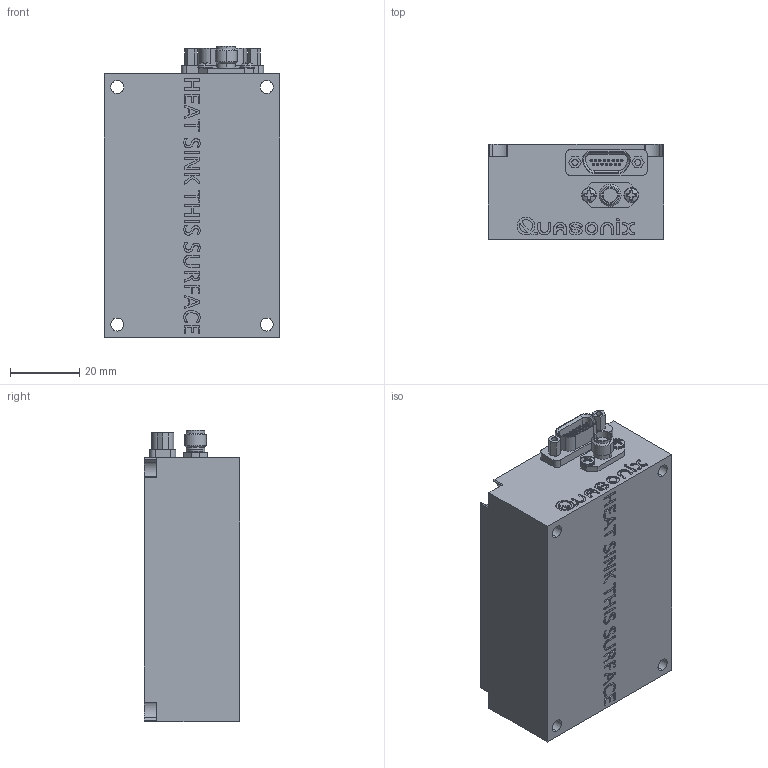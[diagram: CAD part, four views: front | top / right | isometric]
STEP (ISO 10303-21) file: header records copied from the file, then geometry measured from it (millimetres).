
FILE_DESCRIPTION (( 'STEP AP203' ), '1' );
FILE_NAME ('07BF.STEP', '2021-04-09T14:47:40', ( '' ), ( '' ), 'SwSTEP 2.0', 'SolidWorks 2018', '' );
FILE_SCHEMA (( 'CONFIG_CONTROL_DESIGN' ));
Length unit declared in the file: inch
Products named in the file (1): 07BF
Bounding box: 50.8 x 27.48 x 84.14 mm (x, y, z)
Volume: 105585.6 mm3; surface area: 17754.4 mm2
Topology: 7 solids, 7 shells, 727 faces, 1871 edges, 1234 vertices
Faces by surface type: plane 311, bspline 251, cylinder 120, cone 29, torus 12, sphere 4
Entity records: 31106 total; most frequent: CARTESIAN_POINT 14752, ORIENTED_EDGE 3734, DIRECTION 2647, EDGE_CURVE 1867, VERTEX_POINT 1234, LINE 1005, VECTOR 1005, AXIS2_PLACEMENT_3D 821
